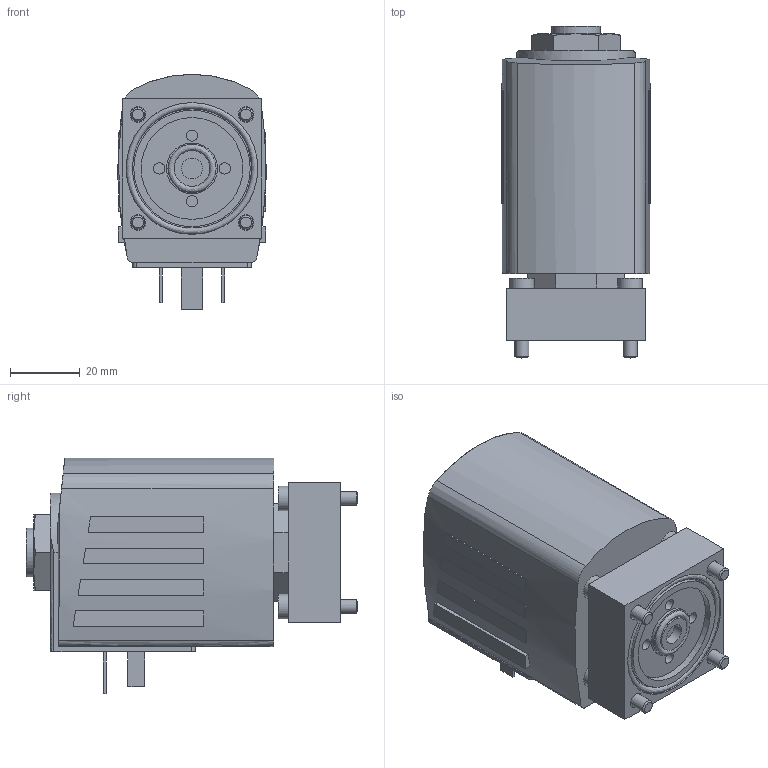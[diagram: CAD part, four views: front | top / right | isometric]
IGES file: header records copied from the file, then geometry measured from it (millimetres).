
Start section: Data from Parasolid IGES Translator 26.0.171, Copyright(c) 2006 Siemens PLM Software. All Rights Reserved.
Global section: file name: 6027-A-4_5-EPDM___EPDM-VA-FK09-42-012___DC.igs; native system: By Siemens PLM Incorporated; preprocessor: XPlus GENERIC/IGES 26.0.171; author: Noname; organization: Noname; date: 20240326.201852; units: millimetre
Bounding box: 42.72 x 95.2 x 67.5 mm (x, y, z)
Surface area: 25491.3 mm2 (no closed solid volume)
Topology: 0 solids, 0 shells, 163 faces, 750 edges, 718 vertices
Faces by surface type: extrusion 111, revolution 52
